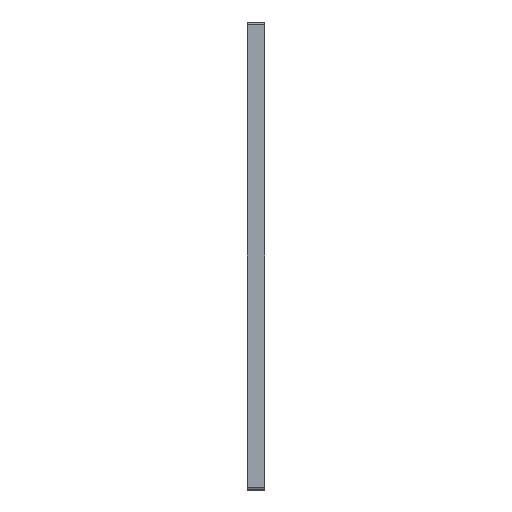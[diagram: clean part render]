
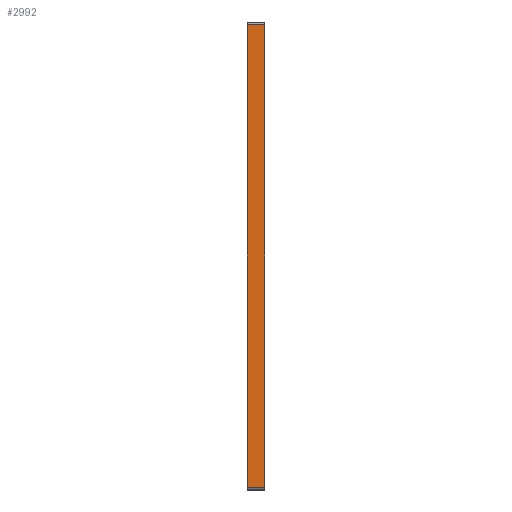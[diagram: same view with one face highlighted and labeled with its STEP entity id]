
A CAD part, front view. The second image highlights one B-rep face of the part: STEP entity #2992.
In plain terms, the highlighted planar face has unit normal (0, -1, 0).
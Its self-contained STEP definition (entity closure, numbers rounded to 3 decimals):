
#123=PLANE('',#3305);
#270=FACE_OUTER_BOUND('',#435,.T.);
#435=EDGE_LOOP('',(#2625,#2626,#2627,#2628));
#461=LINE('',#4206,#750);
#534=LINE('',#4498,#823);
#537=LINE('',#4505,#826);
#743=LINE('',#5055,#1032);
#750=VECTOR('',#3327,10.);
#823=VECTOR('',#3552,10.);
#826=VECTOR('',#3561,10.);
#1032=VECTOR('',#4181,10.);
#1186=VERTEX_POINT('',#4203);
#1187=VERTEX_POINT('',#4205);
#1330=VERTEX_POINT('',#4496);
#1331=VERTEX_POINT('',#4503);
#1478=EDGE_CURVE('',#1187,#1186,#461,.T.);
#1624=EDGE_CURVE('',#1330,#1186,#534,.T.);
#1628=EDGE_CURVE('',#1187,#1331,#537,.T.);
#1903=EDGE_CURVE('',#1330,#1331,#743,.T.);
#2625=ORIENTED_EDGE('',*,*,#1624,.F.);
#2626=ORIENTED_EDGE('',*,*,#1903,.T.);
#2627=ORIENTED_EDGE('',*,*,#1628,.F.);
#2628=ORIENTED_EDGE('',*,*,#1478,.T.);
#2992=ADVANCED_FACE('',(#270),#123,.T.);
#3305=AXIS2_PLACEMENT_3D('',#5054,#4179,#4180);
#3327=DIRECTION('',(0.,0.,-1.));
#3552=DIRECTION('',(-1.,0.,0.));
#3561=DIRECTION('',(1.,0.,0.));
#4179=DIRECTION('center_axis',(0.,-1.,0.));
#4180=DIRECTION('ref_axis',(0.,0.,-1.));
#4181=DIRECTION('',(0.,0.,1.));
#4203=CARTESIAN_POINT('',(0.,-100.,-39.5));
#4205=CARTESIAN_POINT('',(0.,-100.,39.5));
#4206=CARTESIAN_POINT('',(0.,-100.,40.));
#4496=CARTESIAN_POINT('',(3.,-100.,-39.5));
#4498=CARTESIAN_POINT('',(0.,-100.,-39.5));
#4503=CARTESIAN_POINT('',(3.,-100.,39.5));
#4505=CARTESIAN_POINT('',(0.,-100.,39.5));
#5054=CARTESIAN_POINT('Origin',(0.,-100.,-40.));
#5055=CARTESIAN_POINT('',(3.,-100.,40.));
